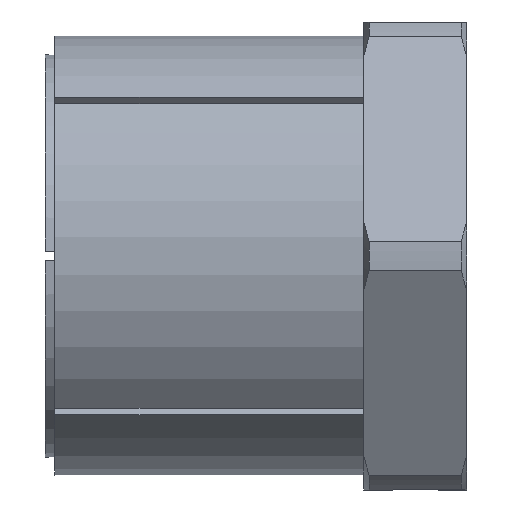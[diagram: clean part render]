
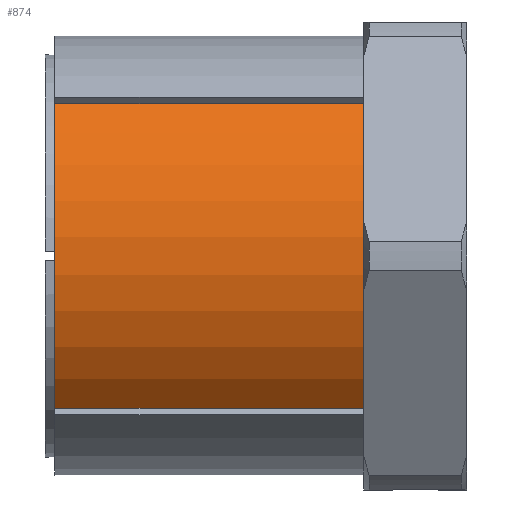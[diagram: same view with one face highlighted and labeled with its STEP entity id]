
A CAD part, front view. The second image highlights one B-rep face of the part: STEP entity #874.
In plain terms, the highlighted cylindrical face has radius 23.5 mm (diameter 47 mm), a partial arc.
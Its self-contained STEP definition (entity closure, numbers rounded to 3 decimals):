
#33 = AXIS2_PLACEMENT_3D ( 'NONE', #2686, #2673, #2665 ) ;
#40 = AXIS2_PLACEMENT_3D ( 'NONE', #580, #569, #568 ) ;
#195 = EDGE_LOOP ( 'NONE', ( #390, #380, #387, #384 ) ) ;
#380 = ORIENTED_EDGE ( 'NONE', *, *, #1555, .T. ) ;
#384 = ORIENTED_EDGE ( 'NONE', *, *, #1562, .T. ) ;
#387 = ORIENTED_EDGE ( 'NONE', *, *, #1516, .F. ) ;
#390 = ORIENTED_EDGE ( 'NONE', *, *, #1556, .T. ) ;
#568 = DIRECTION ( 'NONE',  ( 0., 0., 1. ) ) ;
#569 = DIRECTION ( 'NONE',  ( -1., 0., 0. ) ) ;
#580 = CARTESIAN_POINT ( 'NONE',  ( 0., 0., 0. ) ) ;
#874 = ADVANCED_FACE ( 'NONE', ( #1216 ), #1206, .T. ) ;
#1036 = CIRCLE ( 'NONE', #40, 23.5 ) ;
#1048 = LINE ( 'NONE', #2434, #1055 ) ;
#1050 = VECTOR ( 'NONE', #2669, 1000. ) ;
#1054 = LINE ( 'NONE', #2671, #1050 ) ;
#1055 = VECTOR ( 'NONE', #2605, 1000. ) ;
#1061 = CIRCLE ( 'NONE', #33, 23.5 ) ;
#1206 = CYLINDRICAL_SURFACE ( 'NONE', #1463, 23.5 ) ;
#1216 = FACE_OUTER_BOUND ( 'NONE', #195, .T. ) ;
#1463 = AXIS2_PLACEMENT_3D ( 'NONE', #2000, #2001, #2005 ) ;
#1516 = EDGE_CURVE ( 'NONE', #2186, #2184, #1036, .T. ) ;
#1555 = EDGE_CURVE ( 'NONE', #2196, #2184, #1054, .T. ) ;
#1556 = EDGE_CURVE ( 'NONE', #2197, #2196, #1061, .T. ) ;
#1562 = EDGE_CURVE ( 'NONE', #2186, #2197, #1048, .T. ) ;
#2000 = CARTESIAN_POINT ( 'NONE',  ( 0., 0., 0. ) ) ;
#2001 = DIRECTION ( 'NONE',  ( -1., 0., 0. ) ) ;
#2005 = DIRECTION ( 'NONE',  ( 0., 0., 1. ) ) ;
#2184 = VERTEX_POINT ( 'NONE', #2559 ) ;
#2186 = VERTEX_POINT ( 'NONE', #2557 ) ;
#2196 = VERTEX_POINT ( 'NONE', #2547 ) ;
#2197 = VERTEX_POINT ( 'NONE', #2546 ) ;
#2434 = CARTESIAN_POINT ( 'NONE',  ( 0., -16.967, -16.26 ) ) ;
#2546 = CARTESIAN_POINT ( 'NONE',  ( 33., -16.967, -16.26 ) ) ;
#2547 = CARTESIAN_POINT ( 'NONE',  ( 33., -16.967, 16.26 ) ) ;
#2557 = CARTESIAN_POINT ( 'NONE',  ( 0., -16.967, -16.26 ) ) ;
#2559 = CARTESIAN_POINT ( 'NONE',  ( 0., -16.967, 16.26 ) ) ;
#2605 = DIRECTION ( 'NONE',  ( 1., 0., 0. ) ) ;
#2665 = DIRECTION ( 'NONE',  ( 0., 0., 1. ) ) ;
#2669 = DIRECTION ( 'NONE',  ( -1., 0., 0. ) ) ;
#2671 = CARTESIAN_POINT ( 'NONE',  ( 0., -16.967, 16.26 ) ) ;
#2673 = DIRECTION ( 'NONE',  ( -1., 0., 0. ) ) ;
#2686 = CARTESIAN_POINT ( 'NONE',  ( 33., 0., 0. ) ) ;
